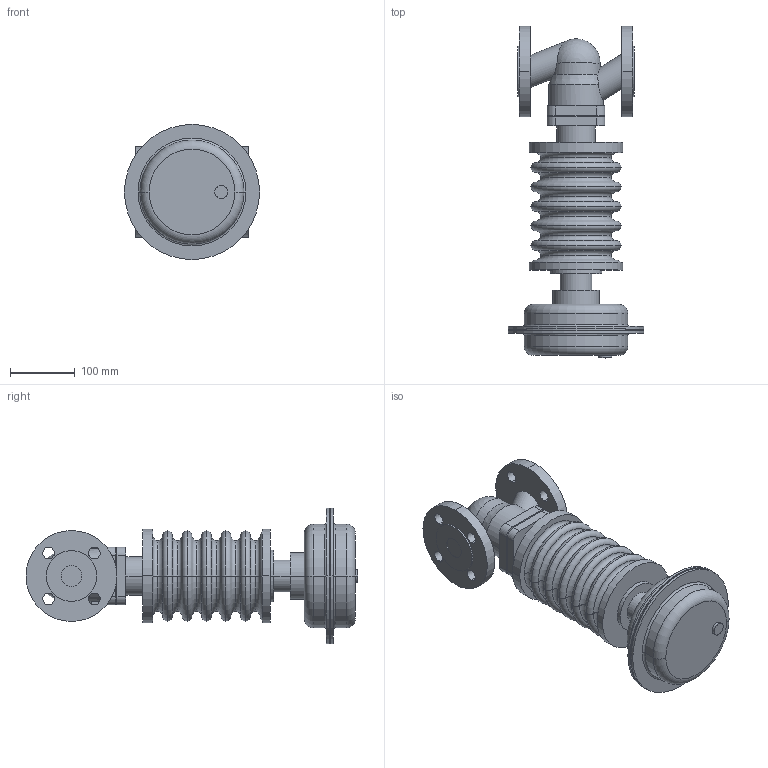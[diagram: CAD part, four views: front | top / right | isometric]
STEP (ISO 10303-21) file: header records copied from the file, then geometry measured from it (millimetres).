
FILE_DESCRIPTION(('OneSpaceDesigner STEP Export'),'2;1');
FILE_NAME('c000000551.stp','2006-08-30T 8:46:14',(''),(''),'OneSpace Designer STEP processor for AP203 (Solid Model)','OneSpace Designer 13.20A 18-Aug-2005 (C) CoCreate Software GmbH','');
FILE_SCHEMA(('CONFIG_CONTROL_DESIGN'));
Length unit declared in the file: millimetre
Products named in the file (1): 2
Bounding box: 208 x 511 x 208 mm (x, y, z)
Volume: 5694070.3 mm3; surface area: 402843.6 mm2
Topology: 1 solids, 1 shells, 176 faces, 407 edges, 256 vertices
Faces by surface type: cylinder 70, torus 54, plane 48, cone 2, sphere 2
Entity records: 4559 total; most frequent: CARTESIAN_POINT 919, ORIENTED_EDGE 810, DIRECTION 666, EDGE_CURVE 405, AXIS2_PLACEMENT_3D 269, VERTEX_POINT 256, EDGE_LOOP 217, FACE_OUTER_BOUND 176
